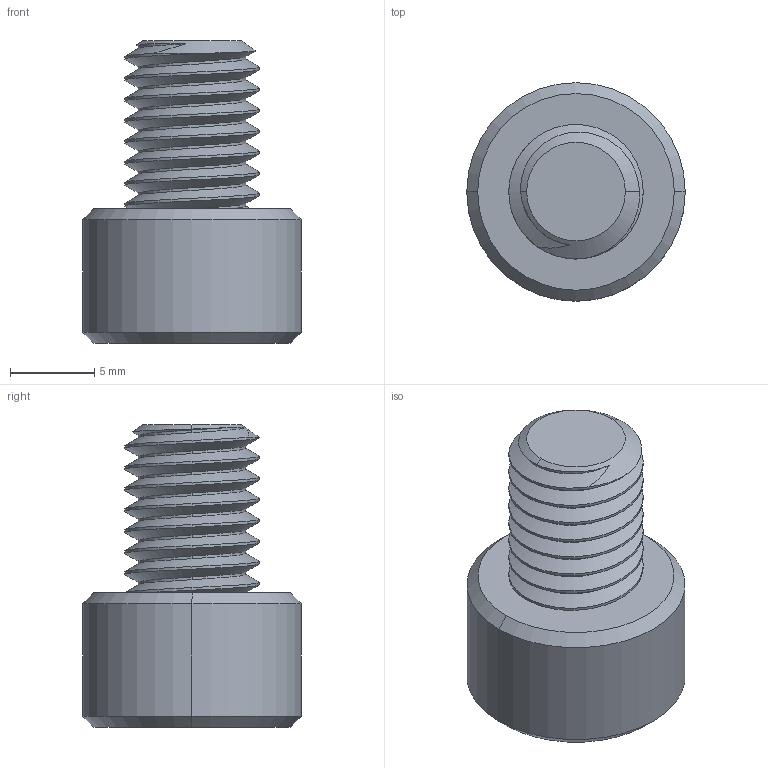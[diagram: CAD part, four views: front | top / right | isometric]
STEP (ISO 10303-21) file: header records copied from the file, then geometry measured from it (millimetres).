
FILE_DESCRIPTION (( 'STEP AP203' ), '1' );
FILE_NAME ('SOCKET HEAD CAP SCREW M8 x 1.25 mm Thread 10 mm Long.STEP', '2017-03-06T13:51:22', ( 'itdept' ), ( '' ), 'SwSTEP 2.0', 'SolidWorks 2016', '' );
FILE_SCHEMA (( 'CONFIG_CONTROL_DESIGN' ));
Length unit declared in the file: millimetre
Products named in the file (1): SOCKET HEAD CAP SCREW M8 x 1.25 mm Thread 10 mm Long
Bounding box: 13 x 13 x 18 mm (x, y, z)
Volume: 1308.1 mm3; surface area: 1029.7 mm2
Topology: 1 solids, 1 shells, 60 faces, 152 edges, 96 vertices
Faces by surface type: cylinder 35, cone 13, plane 10, bspline 2
Entity records: 2815 total; most frequent: CARTESIAN_POINT 1510, ORIENTED_EDGE 304, DIRECTION 212, EDGE_CURVE 152, VERTEX_POINT 96, AXIS2_PLACEMENT_3D 80, EDGE_LOOP 62, FACE_OUTER_BOUND 60
